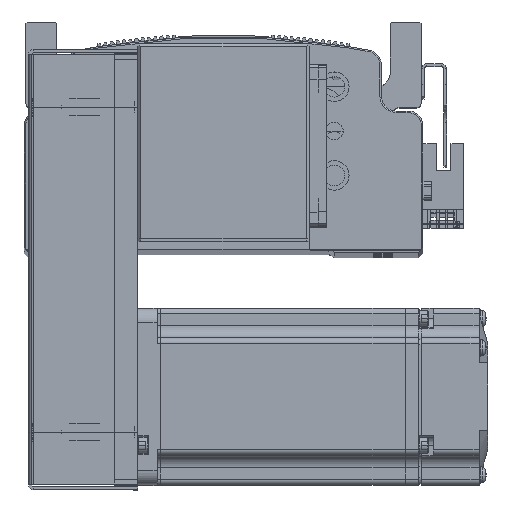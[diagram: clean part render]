
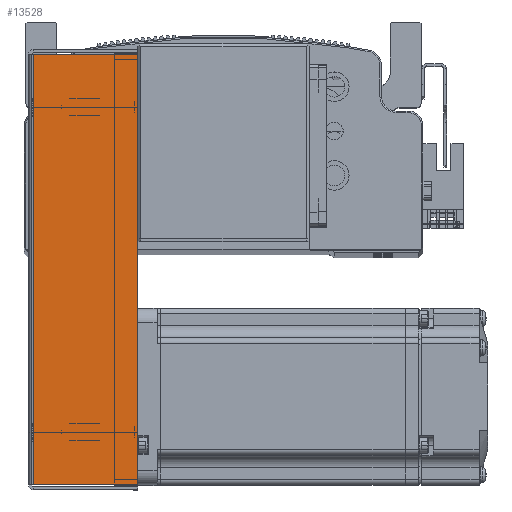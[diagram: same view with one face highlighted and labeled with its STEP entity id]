
A CAD part, top view. The second image highlights one B-rep face of the part: STEP entity #13528.
In plain terms, the highlighted planar face has unit normal (0, 0, 1) as drawn and (0, 0, -1) by its records, which use the part's own axes.
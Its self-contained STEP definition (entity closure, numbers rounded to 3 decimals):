
#13528 = ADVANCED_FACE ( 'NONE', ( #67697 ), #57029, .F. ) ;
#27379 = LINE ( 'NONE', #78670, #27390 ) ;
#27380 = LINE ( 'NONE', #77234, #27404 ) ;
#27390 = VECTOR ( 'NONE', #78662, 1000. ) ;
#27404 = VECTOR ( 'NONE', #77232, 1000. ) ;
#27447 = VECTOR ( 'NONE', #48179, 1000. ) ;
#27456 = LINE ( 'NONE', #48297, #27447 ) ;
#27468 = LINE ( 'NONE', #48259, #27469 ) ;
#27469 = VECTOR ( 'NONE', #48209, 1000. ) ;
#36982 = AXIS2_PLACEMENT_3D ( 'NONE', #57057, #57008, #57110 ) ;
#41270 = CARTESIAN_POINT ( 'NONE',  ( -72.793, 0.737, -34.5 ) ) ;
#41300 = CARTESIAN_POINT ( 'NONE',  ( -72.793, 36., -34.5 ) ) ;
#41321 = CARTESIAN_POINT ( 'NONE',  ( 72.793, 36., -34.5 ) ) ;
#41329 = CARTESIAN_POINT ( 'NONE',  ( 72.793, 0.737, -34.5 ) ) ;
#48179 = DIRECTION ( 'NONE',  ( 1., 0., 0. ) ) ;
#48209 = DIRECTION ( 'NONE',  ( 1., 0., 0. ) ) ;
#48259 = CARTESIAN_POINT ( 'NONE',  ( 0., 36., -34.5 ) ) ;
#48297 = CARTESIAN_POINT ( 'NONE',  ( 74.5, 0.737, -34.5 ) ) ;
#48978 = EDGE_CURVE ( 'NONE', #74607, #74609, #27379, .T. ) ;
#48998 = EDGE_CURVE ( 'NONE', #74519, #74537, #27380, .T. ) ;
#49056 = EDGE_CURVE ( 'NONE', #74537, #74609, #27468, .T. ) ;
#49085 = EDGE_CURVE ( 'NONE', #74519, #74607, #27456, .T. ) ;
#57008 = DIRECTION ( 'NONE',  ( 0., 0., 1. ) ) ;
#57029 = PLANE ( 'NONE',  #36982 ) ;
#57057 = CARTESIAN_POINT ( 'NONE',  ( 0., 0., -34.5 ) ) ;
#57110 = DIRECTION ( 'NONE',  ( 0., -1., 0. ) ) ;
#63315 = EDGE_LOOP ( 'NONE', ( #66551, #66586, #66431, #66395 ) ) ;
#66395 = ORIENTED_EDGE ( 'NONE', *, *, #48978, .F. ) ;
#66431 = ORIENTED_EDGE ( 'NONE', *, *, #49056, .T. ) ;
#66551 = ORIENTED_EDGE ( 'NONE', *, *, #49085, .F. ) ;
#66586 = ORIENTED_EDGE ( 'NONE', *, *, #48998, .T. ) ;
#67697 = FACE_OUTER_BOUND ( 'NONE', #63315, .T. ) ;
#74519 = VERTEX_POINT ( 'NONE', #41270 ) ;
#74537 = VERTEX_POINT ( 'NONE', #41300 ) ;
#74607 = VERTEX_POINT ( 'NONE', #41329 ) ;
#74609 = VERTEX_POINT ( 'NONE', #41321 ) ;
#77232 = DIRECTION ( 'NONE',  ( 0., 1., 0. ) ) ;
#77234 = CARTESIAN_POINT ( 'NONE',  ( -72.793, 0., -34.5 ) ) ;
#78662 = DIRECTION ( 'NONE',  ( 0., 1., 0. ) ) ;
#78670 = CARTESIAN_POINT ( 'NONE',  ( 72.793, 0., -34.5 ) ) ;
